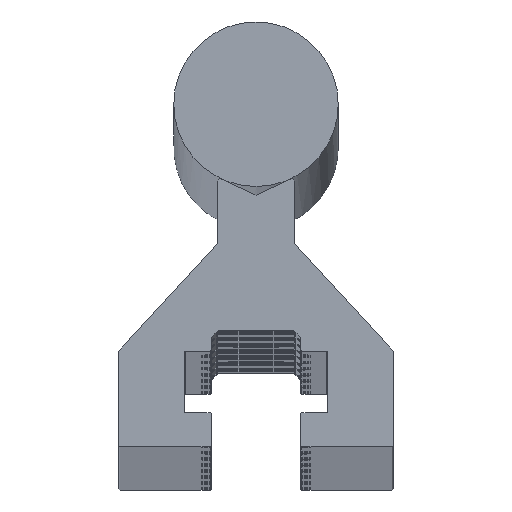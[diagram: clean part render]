
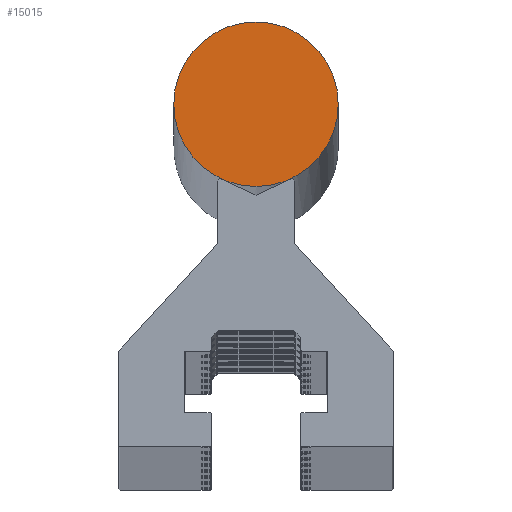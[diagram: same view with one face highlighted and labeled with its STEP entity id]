
A CAD part, top view. The second image highlights one B-rep face of the part: STEP entity #15015.
In plain terms, the highlighted planar face has unit normal (0, 0, 1).
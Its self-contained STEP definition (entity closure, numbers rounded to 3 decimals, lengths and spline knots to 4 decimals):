
#2067 = FACE_OUTER_BOUND ( 'NONE', #19038, .T. ) ;
#3181 = ORIENTED_EDGE ( 'NONE', *, *, #11522, .T. ) ;
#3490 = VERTEX_POINT ( 'NONE', #26609 ) ;
#11522 = EDGE_CURVE ( 'NONE', #3490, #3490, #20468, .T. ) ;
#15015 = ADVANCED_FACE ( 'NONE', ( #2067 ), #18177, .T. ) ;
#17954 = DIRECTION ( 'NONE',  ( 1., 0., 0. ) ) ;
#17997 = DIRECTION ( 'NONE',  ( 0., 0., 1. ) ) ;
#18177 = PLANE ( 'NONE',  #33189 ) ;
#19038 = EDGE_LOOP ( 'NONE', ( #3181 ) ) ;
#19115 = CARTESIAN_POINT ( 'NONE',  ( 0., 25., 1. ) ) ;
#20468 = CIRCLE ( 'NONE', #24484, 6. ) ;
#21364 = DIRECTION ( 'NONE',  ( 1., 0., 0. ) ) ;
#24484 = AXIS2_PLACEMENT_3D ( 'NONE', #25094, #25058, #21364 ) ;
#25058 = DIRECTION ( 'NONE',  ( 0., 0., 1. ) ) ;
#25094 = CARTESIAN_POINT ( 'NONE',  ( 0., 25., 1. ) ) ;
#26609 = CARTESIAN_POINT ( 'NONE',  ( 6., 25., 1. ) ) ;
#33189 = AXIS2_PLACEMENT_3D ( 'NONE', #19115, #17997, #17954 ) ;
